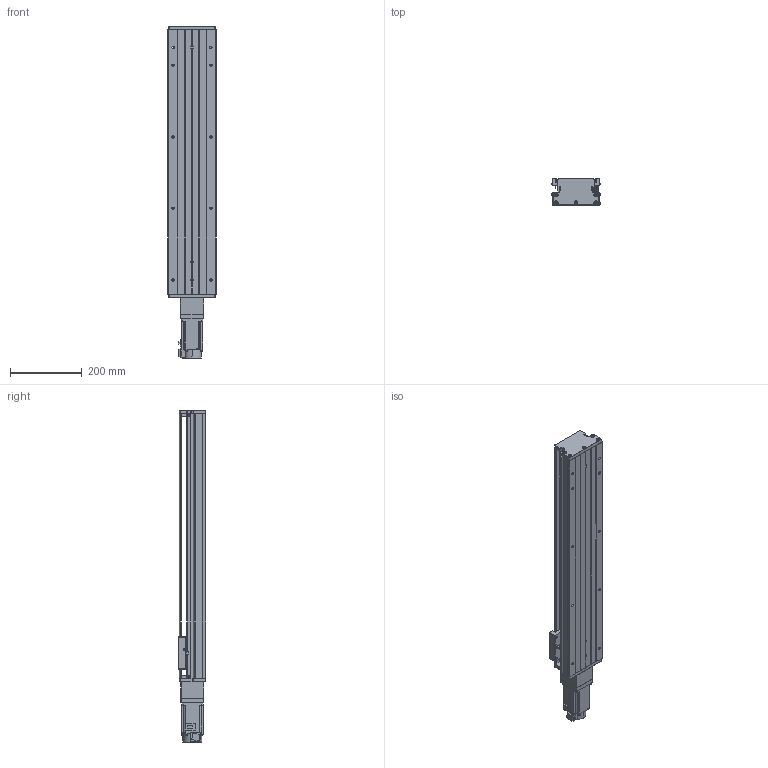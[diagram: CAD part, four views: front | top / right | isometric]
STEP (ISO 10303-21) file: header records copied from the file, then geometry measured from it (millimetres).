
FILE_DESCRIPTION (( 'STEP AP203' ), '1' );
FILE_NAME ('KTH130-600-BC-M40-C4.step', '2023-06-30T03:54:53', ( '微软用户' ), ( '微软中国' ), 'SwSTEP 2.0', 'SolidWorks 2020', '' );
FILE_SCHEMA (( 'CONFIG_CONTROL_DESIGN' ));
Length unit declared in the file: millimetre
Products named in the file (19): CTHA86-027-1; KTH130-600-BC-M40-C4; KTH130-005; GBT 70.1-M3℅5; HG-KN43J-S100; GB1155-6X6; GBT77-2000 M3×3; GBT70.1 M5℅16; す晦芛蹟隊 M3℅5; GBT 70.2-M3¡Á5_M3¡Á6; GBT 70.3-M3℅8; GTH14-001_600; CTHA60-017; CTHA86-006-1_M40; KTH130-002_KTH130-002; EE_SX911P_R; CTHA86-013; KTH130-004; CTHA60-016
Assembly tree (52 placements, depth 2):
  KTH130-600-BC-M40-C4
    GTH14-001_600
    KTH130-002_KTH130-002
    KTH130-004
    KTH130-005
    GB1155-6X6  x2
    GBT70.1 M5℅16  x10
    GBT 70.2-M3¡Á5_M3¡Á6  x4
    CTHA60-017  x3
    EE_SX911P_R  x3
    CTHA60-016  x2
    GBT 70.1-M3℅5  x6
    GBT77-2000 M3×3  x6
    す晦芛蹟隊 M3℅5  x2
    GBT 70.3-M3℅8  x6
    CTHA86-006-1_M40
    CTHA86-013
    CTHA86-027-1
    HG-KN43J-S100
Bounding box: 135 x 78 x 928.7 mm (x, y, z)
Volume: 4721474.5 mm3; surface area: 729597.4 mm2
Topology: 55 solids, 55 shells, 2182 faces, 5278 edges, 3294 vertices
Faces by surface type: plane 1194, cylinder 600, cone 280, torus 96, sphere 12
Entity records: 39882 total; most frequent: CARTESIAN_POINT 8476, DIRECTION 5925, ORIENTED_EDGE 5840, EDGE_CURVE 2920, AXIS2_PLACEMENT_3D 2017, VECTOR 1891, LINE 1891, VERTEX_POINT 1866
